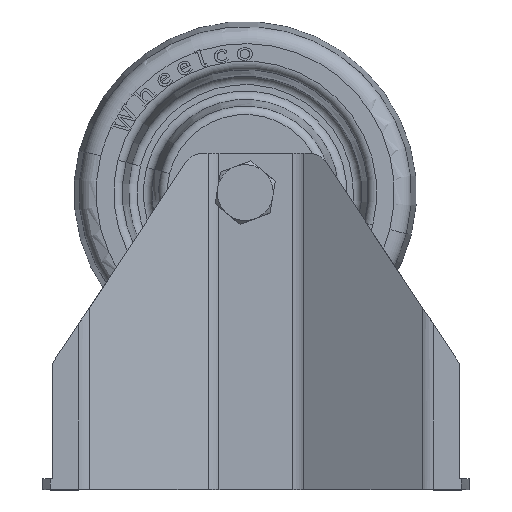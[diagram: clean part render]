
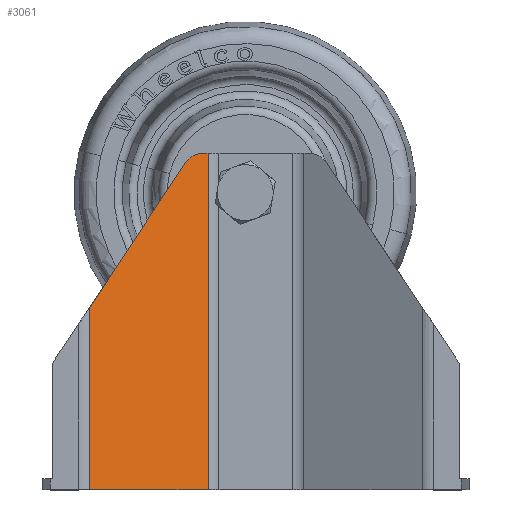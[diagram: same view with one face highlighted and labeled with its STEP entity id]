
A CAD part, top view. The second image highlights one B-rep face of the part: STEP entity #3061.
In plain terms, the highlighted planar face has unit normal (0.509, 0, 0.861) as drawn and (-0.509, 0, -0.861) by its records, which use the part's own axes.
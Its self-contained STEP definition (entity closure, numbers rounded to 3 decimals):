
#165 = DIRECTION ( 'NONE',  ( 0.861, 0., -0.509 ) ) ;
#719 = VECTOR ( 'NONE', #41705, 1000. ) ;
#790 = ORIENTED_EDGE ( 'NONE', *, *, #29604, .T. ) ;
#1038 = LINE ( 'NONE', #25073, #27782 ) ;
#1495 = EDGE_CURVE ( 'NONE', #25282, #46416, #1038, .T. ) ;
#3061 = ADVANCED_FACE ( 'NONE', ( #39201 ), #30751, .T. ) ;
#3406 = CARTESIAN_POINT ( 'NONE',  ( -13.914, 78.5, -23.517 ) ) ;
#4150 = CARTESIAN_POINT ( 'NONE',  ( 88.822, 0., -84.303 ) ) ;
#8332 = EDGE_CURVE ( 'NONE', #32073, #17841, #32366, .T. ) ;
#8641 = VECTOR ( 'NONE', #29806, 1000. ) ;
#9465 = LINE ( 'NONE', #49905, #719 ) ;
#9718 = CARTESIAN_POINT ( 'NONE',  ( 35.595, 122.834, -52.81 ) ) ;
#10867 = ORIENTED_EDGE ( 'NONE', *, *, #14122, .T. ) ;
#11279 = DIRECTION ( 'NONE',  ( 0., -1., 0. ) ) ;
#14122 = EDGE_CURVE ( 'NONE', #51558, #25282, #9465, .T. ) ;
#15159 = CARTESIAN_POINT ( 'NONE',  ( 61.178, 78.5, -67.947 ) ) ;
#16032 = VECTOR ( 'NONE', #11279, 1000. ) ;
#16937 = ORIENTED_EDGE ( 'NONE', *, *, #46421, .T. ) ;
#17402 = LINE ( 'NONE', #9718, #8641 ) ;
#17841 = VERTEX_POINT ( 'NONE', #25037 ) ;
#18810 = ORIENTED_EDGE ( 'NONE', *, *, #8332, .T. ) ;
#19730 = LINE ( 'NONE', #51184, #16032 ) ;
#20630 = CARTESIAN_POINT ( 'NONE',  ( 88.822, 42.583, -84.303 ) ) ;
#20747 = ORIENTED_EDGE ( 'NONE', *, *, #47627, .F. ) ;
#25037 = CARTESIAN_POINT ( 'NONE',  ( 66.483, 76.264, -71.086 ) ) ;
#25073 = CARTESIAN_POINT ( 'NONE',  ( -13.914, 0., -23.517 ) ) ;
#25282 = VERTEX_POINT ( 'NONE', #4150 ) ;
#26215 = VERTEX_POINT ( 'NONE', #15159 ) ;
#27646 = ORIENTED_EDGE ( 'NONE', *, *, #1495, .T. ) ;
#27782 = VECTOR ( 'NONE', #33006, 1000. ) ;
#28196 = CARTESIAN_POINT ( 'NONE',  ( 62.316, 78.5, -68.621 ) ) ;
#29604 = EDGE_CURVE ( 'NONE', #17841, #51558, #17402, .T. ) ;
#29806 = DIRECTION ( 'NONE',  ( 0.525, -0.792, -0.311 ) ) ;
#30751 = PLANE ( 'NONE',  #40922 ) ;
#31008 = DIRECTION ( 'NONE',  ( -0.861, 0., 0.509 ) ) ;
#32073 = VERTEX_POINT ( 'NONE', #28196 ) ;
#32366 =( BOUNDED_CURVE ( )  B_SPLINE_CURVE ( 3, ( #43962, #36300, #35784, #51907 ),
 .UNSPECIFIED., .F., .T. ) 
 B_SPLINE_CURVE_WITH_KNOTS ( ( 4, 4 ),
 ( 1.571, 2.556 ),
 .UNSPECIFIED. ) 
 CURVE ( )  GEOMETRIC_REPRESENTATION_ITEM ( )  RATIONAL_B_SPLINE_CURVE ( ( 1., 0.921, 0.921, 1. ) ) 
 REPRESENTATION_ITEM ( '' )  );
#33006 = DIRECTION ( 'NONE',  ( -0.861, 0., 0.509 ) ) ;
#33935 = CARTESIAN_POINT ( 'NONE',  ( -13.914, 78.5, -23.517 ) ) ;
#35111 = CARTESIAN_POINT ( 'NONE',  ( 61.178, 0., -67.947 ) ) ;
#35784 = CARTESIAN_POINT ( 'NONE',  ( 65.537, 77.69, -70.526 ) ) ;
#36300 = CARTESIAN_POINT ( 'NONE',  ( 64.029, 78.5, -69.634 ) ) ;
#39201 = FACE_OUTER_BOUND ( 'NONE', #50841, .T. ) ;
#40922 = AXIS2_PLACEMENT_3D ( 'NONE', #33935, #42383, #31008 ) ;
#41279 = VECTOR ( 'NONE', #165, 1000. ) ;
#41705 = DIRECTION ( 'NONE',  ( 0., -1., 0. ) ) ;
#42383 = DIRECTION ( 'NONE',  ( -0.509, 0., -0.861 ) ) ;
#43962 = CARTESIAN_POINT ( 'NONE',  ( 62.316, 78.5, -68.621 ) ) ;
#46416 = VERTEX_POINT ( 'NONE', #35111 ) ;
#46421 = EDGE_CURVE ( 'NONE', #26215, #32073, #50980, .T. ) ;
#47627 = EDGE_CURVE ( 'NONE', #26215, #46416, #19730, .T. ) ;
#49905 = CARTESIAN_POINT ( 'NONE',  ( 88.822, 78.5, -84.303 ) ) ;
#50841 = EDGE_LOOP ( 'NONE', ( #16937, #18810, #790, #10867, #27646, #20747 ) ) ;
#50980 = LINE ( 'NONE', #3406, #41279 ) ;
#51184 = CARTESIAN_POINT ( 'NONE',  ( 61.178, 78.5, -67.947 ) ) ;
#51558 = VERTEX_POINT ( 'NONE', #20630 ) ;
#51907 = CARTESIAN_POINT ( 'NONE',  ( 66.483, 76.264, -71.086 ) ) ;
